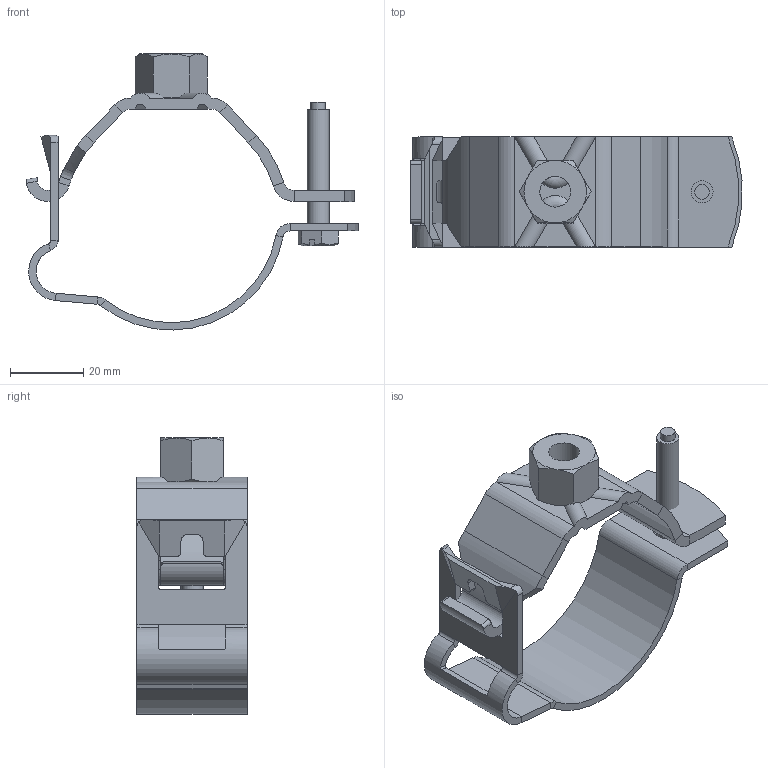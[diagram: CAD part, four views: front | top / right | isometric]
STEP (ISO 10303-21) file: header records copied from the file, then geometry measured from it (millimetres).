
FILE_DESCRIPTION(/* description */ (''),/* implementation_level */ '2;1');
FILE_NAME(/* name */ 'C:\Planerdaten\Export PLA\361.843.00.2\stp\361843.stp',/* time_stamp */ '2020-02-28T04:56:25-08:00',/* author */ ('JANAN'),/* organization */ (''),/* preprocessor_version */ 'ST-DEVELOPER v16.13',/* originating_system */ 'Autodesk Inventor 2018',/* authorisation */ '');
FILE_SCHEMA (('AUTOMOTIVE_DESIGN { 1 0 10303 214 3 1 1 }'));
Length unit declared in the file: millimetre
Products named in the file (4): Rohrschelle d50/58 M10 verstellbar; 38098941_CPP_000_00___Rohrschelle UnT St d50 verz; 30054998_CPP_000_01___Rohrschelle ObT St d50 M10 verz; 30054957_CPP_000_01___Sechskantschraube M6x35-4.8 verzinkt
Assembly tree (3 placements, depth 2):
  Rohrschelle d50/58 M10 verstellbar
    38098941_CPP_000_00___Rohrschelle UnT St d50 verz
    30054998_CPP_000_01___Rohrschelle ObT St d50 M10 verz
    30054957_CPP_000_01___Sechskantschraube M6x35-4.8 verzinkt
Bounding box: 90.42 x 30 x 75.19 mm (x, y, z)
Volume: 21030 mm3; surface area: 18273.8 mm2
Topology: 3 solids, 3 shells, 214 faces, 535 edges, 326 vertices
Faces by surface type: plane 132, cylinder 50, cone 22, bspline 8, torus 2
Full cylindrical faces by diameter (mm): 4 x1, 4.917 x1, 6 x1, 8.376 x1
Entity records: 6878 total; most frequent: CARTESIAN_POINT 1725, ORIENTED_EDGE 1060, DIRECTION 1047, EDGE_CURVE 530, AXIS2_PLACEMENT_3D 366, VERTEX_POINT 325, LINE 315, VECTOR 315
